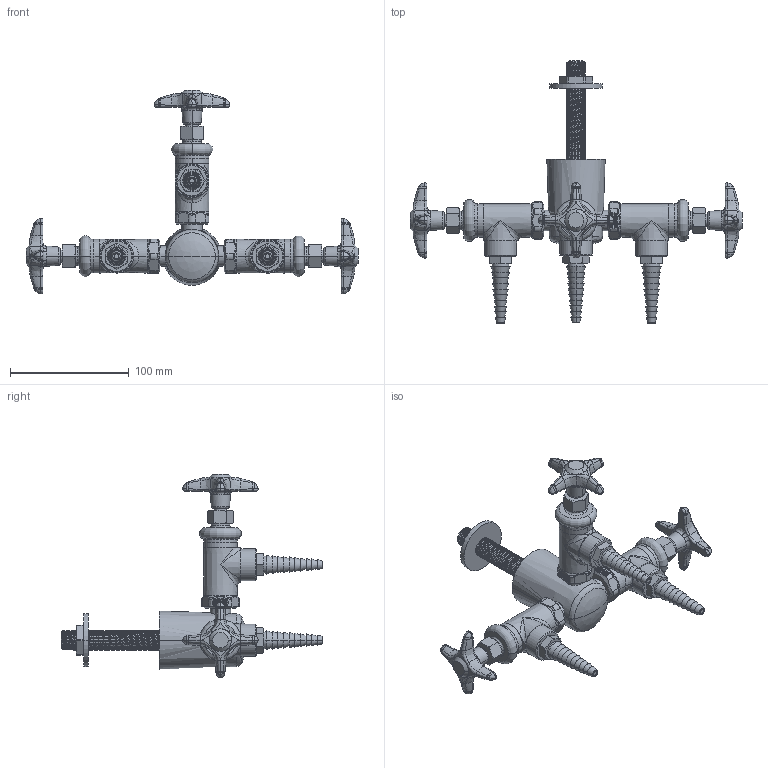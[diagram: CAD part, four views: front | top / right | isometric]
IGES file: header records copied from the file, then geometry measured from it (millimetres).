
Start section:  PTC IGES file: LGF3-A11H-30.igs
Global section: file name: LGF3-A11H-30.igs; native system: Creo Parametric by PTC Inc.; preprocessor: 2014500; author: usch_engrender; organization: Unknown; date: 20160112.133327; units: inch
Bounding box: 279.25 x 220.37 x 171.33 mm (x, y, z)
Volume: 314941.7 mm3; surface area: 108631.5 mm2
Topology: 1 solids, 14 shells, 2059 faces, 4855 edges, 2890 vertices
Faces by surface type: bspline 1133, revolution 926
